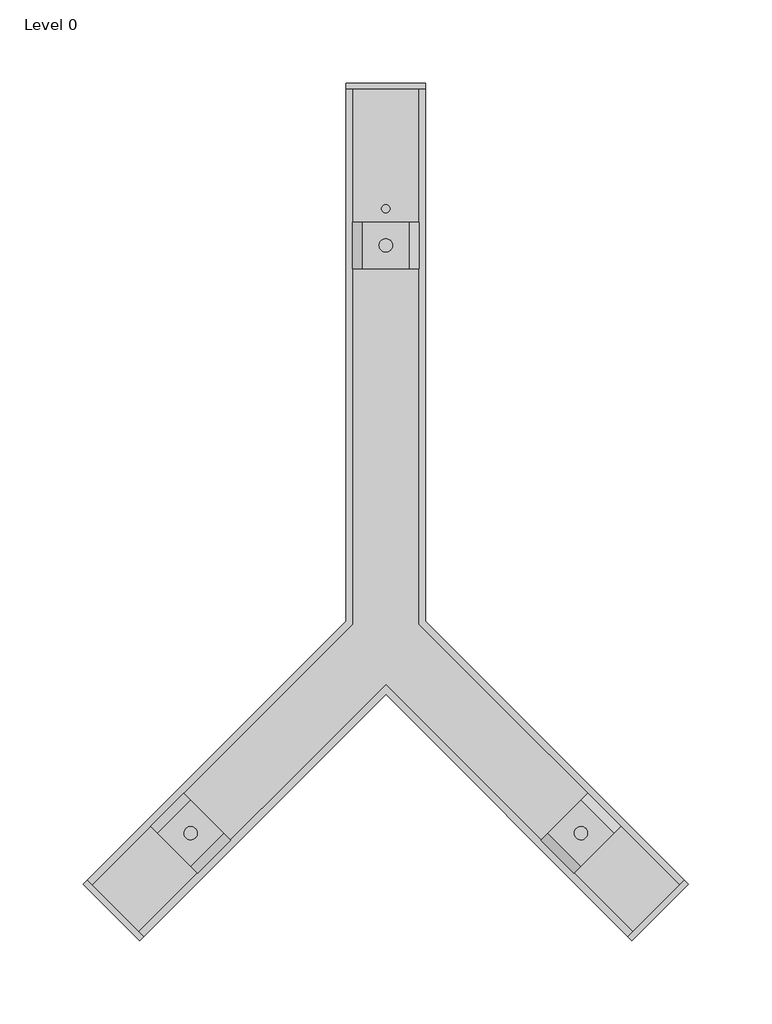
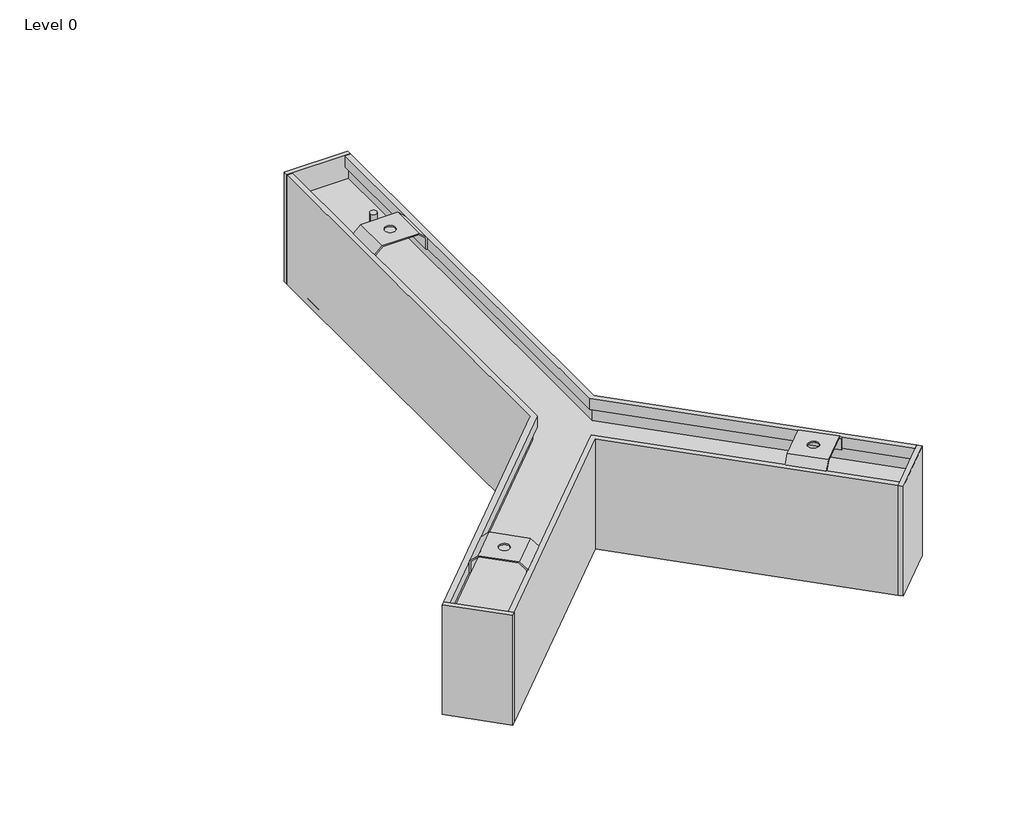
# One storey: 1 light fixture.
"""IFC4 building model written with IfcOpenShell, lengths in millimetres."""

from ifc_helpers import new_model, si_unit, origin, place, context, project, spatial, transform, mapped, element, save
from components import silver_anodized_3000_k_1200_lm_d8fd331b

model = new_model("IFC4")

# Units and contexts
model_context = context("Model", 3, world=origin())
ifc_project = project(units=[si_unit("LENGTHUNIT", "METRE", prefix="MILLI")], contexts=[model_context])

# Site, building, storey
site = spatial("IfcSite", under=ifc_project)
building = spatial("IfcBuilding", under=site)
storey = spatial("IfcBuildingStorey", under=building, Name="Level 0", Elevation=0.0)

# Light fixture
placement = place(None, origin())
silver_anodized_3000_k_1200_lm_shape = silver_anodized_3000_k_1200_lm_d8fd331b(model_context)
element("IfcLightFixture", 1, ObjectType="KLUŚ - SERPENT - NT Y90 : Silver Anodized - 3000 K - 1200 lm", at=placement, inside=storey, context=model_context, shape_type="MappedRepresentation", body=[
    mapped(silver_anodized_3000_k_1200_lm_shape, transform((0.0, 0.0, 93.0), x_axis=(1.0, 0.0, 0.0), y_axis=(0.0, -1.0, 0.0), z_axis=(0.0, 0.0, -1.0))),
])

save(model, "model.ifc")
